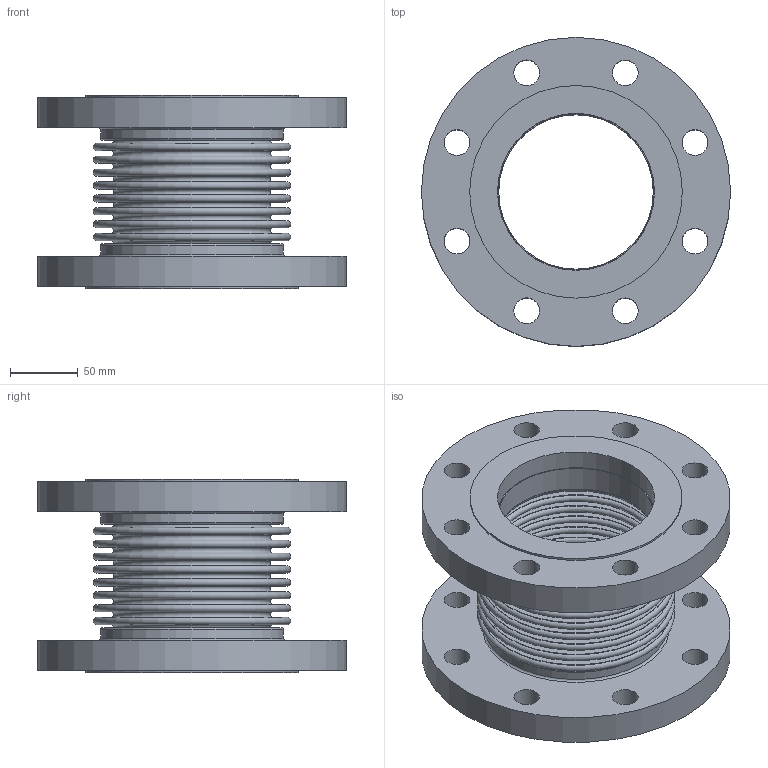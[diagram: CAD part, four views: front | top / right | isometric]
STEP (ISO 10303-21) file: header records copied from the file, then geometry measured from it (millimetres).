
FILE_DESCRIPTION(/* description */ ('EXPANSION JOINT,SINGLE, FLANGED ENDS,4 INCH NOMINAL','CAx-IF Rec.Pracs.---Representation and Presentation of Product Manufacturing Information (PMI)---4.0---2014-10-13'),/* implementation_level */ '2;1');
FILE_NAME(/* name */ 'US-04-8-85S-FLANGED ENDS.stp',/* time_stamp */ '2026-07-31T18:03:51-05:00',/* author */ ('Guadalupe'),/* organization */ (''),/* preprocessor_version */ 'ST-DEVELOPER v20.1',/* originating_system */ 'Autodesk Inventor 2026',/* authorisation */ '');
FILE_SCHEMA (('AP242_MANAGED_MODEL_BASED_3D_ENGINEERING_MIM_LF { 1 0 10303 442 2 1 4 }'));
Length unit declared in the file: inch
Products named in the file (3): 04-85S; 04-85S-02; 04-85S-01
Assembly tree (3 placements, depth 2):
  04-85S
    04-85S-02  x2
    04-85S-01
Bounding box: 228.6 x 228.6 x 142.75 mm (x, y, z)
Volume: 1436461.5 mm3; surface area: 463035.7 mm2
Topology: 5 solids, 5 shells, 112 faces, 198 edges, 132 vertices
Faces by surface type: plane 46, torus 38, cylinder 28
Full cylindrical faces by diameter (mm): 19.05 x16, 114.3 x2, 115.519 x2, 116.078 x2, 134.874 x2, 157.226 x2, 228.6 x2
Entity records: 2558 total; most frequent: DIRECTION 522, CARTESIAN_POINT 377, ORIENTED_EDGE 312, AXIS2_PLACEMENT_3D 253, EDGE_CURVE 156, EDGE_LOOP 152, CIRCLE 140, VERTEX_POINT 104
